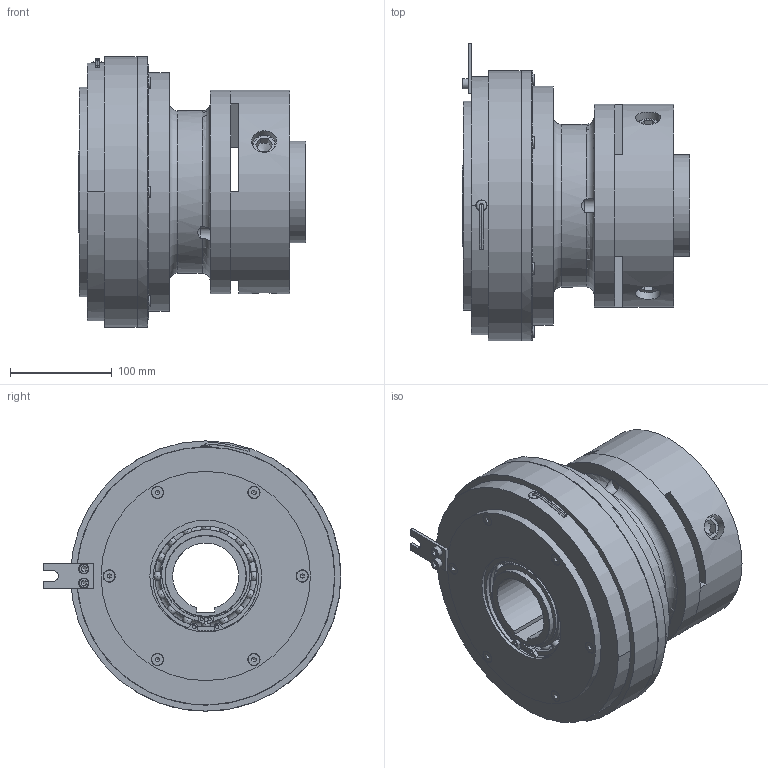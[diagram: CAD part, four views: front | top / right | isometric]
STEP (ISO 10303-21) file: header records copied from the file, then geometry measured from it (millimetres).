
FILE_DESCRIPTION(/* description */ (''),/* implementation_level */ '2;1');
FILE_NAME(/* name */ 'X:\INVENTOR\DISEGNI\08_Freni_Friz_Elettmag_Monodisco\08_26 EMSL_DF\EMSL_DF STEP\08_26_260_51 EMSL260_DF-GE@STEP.stp',/* time_stamp */ '2018-04-24T10:18:46+02:00',/* author */ ('stefano'),/* organization */ (''),/* preprocessor_version */ 'ST-DEVELOPER v17',/* originating_system */ 'Autodesk Inventor 2018',/* authorisation */ '');
FILE_SCHEMA (('AUTOMOTIVE_DESIGN { 1 0 10303 214 3 1 1 }'));
Length unit declared in the file: millimetre
Products named in the file (1): 08_26_260_51 EMSL260_DF-GE_Substitute_1
Bounding box: 224 x 293 x 266 mm (x, y, z)
Volume: 5553765.3 mm3; surface area: 788919.6 mm2
Topology: 2 solids, 2 shells, 958 faces, 2931 edges, 1994 vertices
Faces by surface type: plane 388, cylinder 333, cone 103, torus 99, sphere 32, bspline 3
Full cylindrical faces by diameter (mm): 2 x6, 3 x2, 3.5 x4, 4 x1, 4.917 x10, 5 x3, 6.647 x6, 7 x6, 7.1 x18, 10 x12, 11 x19, 11.34 x6, 12 x6, 13 x6, 13.5 x6, 13.835 x3, 24 x6, 24.5 x6, 76.5 x1, 80 x2, 81.5 x1, 85 x3, 89.6 x4, 90 x1, 99 x1, 100 x2, 100.4 x4, 105 x1, 110 x4, 114 x2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
Entity records: 37505 total; most frequent: CARTESIAN_POINT 10374, ORIENTED_EDGE 5652, DIRECTION 5628, EDGE_CURVE 2826, AXIS2_PLACEMENT_3D 2350, VERTEX_POINT 1994, CIRCLE 1394, EDGE_LOOP 1228
